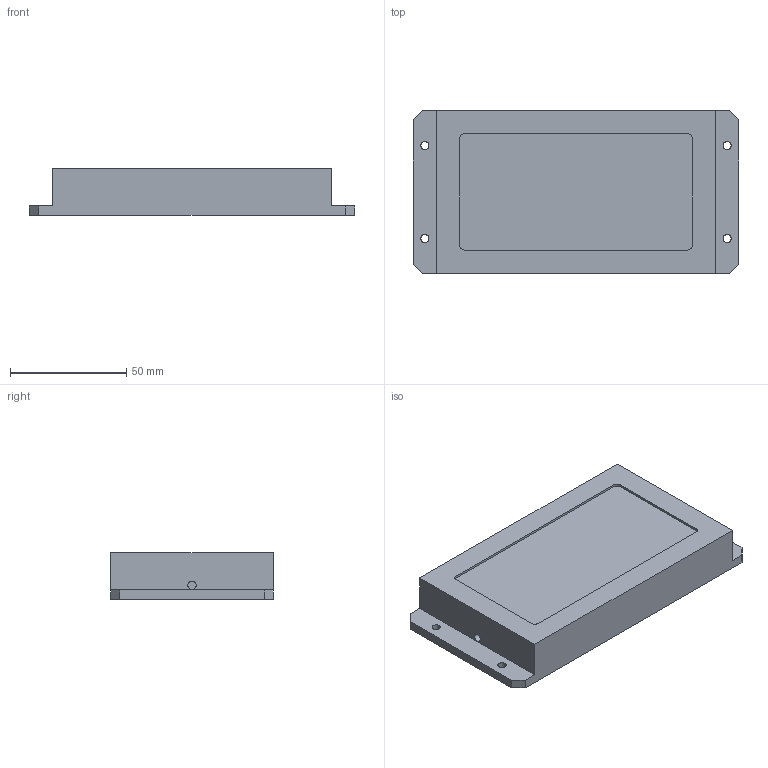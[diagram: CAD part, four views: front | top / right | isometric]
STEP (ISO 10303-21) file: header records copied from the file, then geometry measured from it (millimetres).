
FILE_DESCRIPTION (( 'STEP AP214' ), '1' );
FILE_NAME ('CST-HFS100100-简易3D图.STEP', '2019-09-06T11:21:40', ( '微软用户' ), ( '微软中国' ), 'SwSTEP 2.0', 'SolidWorks 2014', '' );
FILE_SCHEMA (( 'AUTOMOTIVE_DESIGN' ));
Length unit declared in the file: millimetre
Products named in the file (1): CST-HFS100100-潠眢3D芞
Bounding box: 140 x 70 x 20 mm (x, y, z)
Volume: 168263.8 mm3; surface area: 27720 mm2
Topology: 1 solids, 1 shells, 34 faces, 90 edges, 60 vertices
Faces by surface type: plane 20, cylinder 14
Entity records: 1112 total; most frequent: DIRECTION 188, CARTESIAN_POINT 185, ORIENTED_EDGE 180, EDGE_CURVE 90, AXIS2_PLACEMENT_3D 63, VECTOR 62, LINE 62, VERTEX_POINT 60
